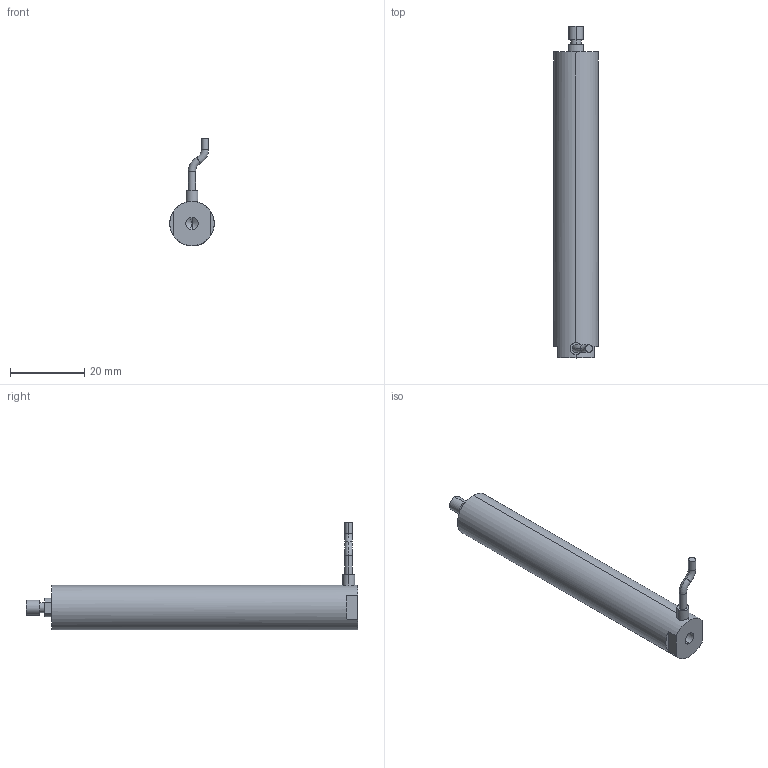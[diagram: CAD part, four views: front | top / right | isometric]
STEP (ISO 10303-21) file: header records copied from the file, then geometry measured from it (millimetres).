
FILE_DESCRIPTION (( 'STEP AP203' ), '1' );
FILE_NAME ('俋蹟恇宒80VS12.STEP', '2020-08-19T06:00:59', ( 'User' ), ( 'china' ), 'SwSTEP 2.0', 'SolidWorks 2016', '' );
FILE_SCHEMA (( 'CONFIG_CONTROL_DESIGN' ));
Length unit declared in the file: millimetre
Products named in the file (1): 俋蹟恇宒80VS12
Bounding box: 12 x 89.5 x 29.08 mm (x, y, z)
Volume: 9410.6 mm3; surface area: 3632 mm2
Topology: 1 solids, 1 shells, 934 faces, 2504 edges, 1665 vertices
Faces by surface type: bspline 515, plane 306, cylinder 107, torus 4, cone 2
Entity records: 43904 total; most frequent: CARTESIAN_POINT 25068, ORIENTED_EDGE 5004, EDGE_CURVE 2502, DIRECTION 1923, B_SPLINE_CURVE_WITH_KNOTS 1689, VERTEX_POINT 1665, EDGE_LOOP 1029, ADVANCED_FACE 934
